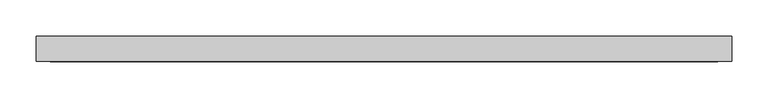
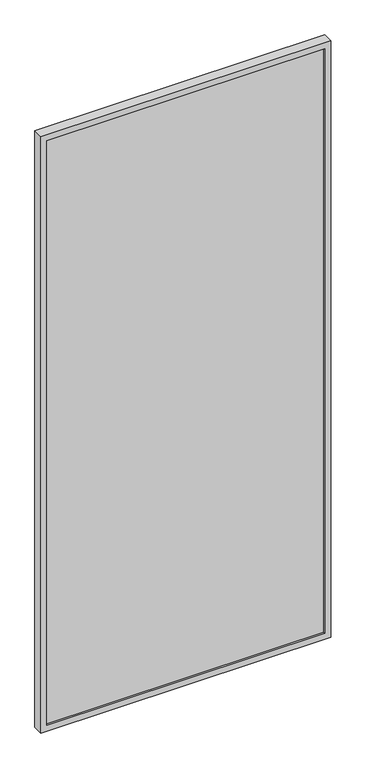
"""IFC4 building model written with IfcOpenShell, lengths in millimetres: plate geometry, ARQ-PA-IN-Vidrio Fijo Laminado  : ARQ-PA-IN-Vidrio Fijo Laminado ."""

from ifc_helpers import new_model, si_unit, frame, origin, place, context, project, spatial, polyline, outline, extrude, source, transform, mapped, element, save


def plate_b5645cc8(model_context):
    return source(origin(), model_context, "Body", "SweptSolid", [
        extrude(outline(polyline([(462.9589742, 10.0), (462.9589742, -10.0), (-462.9589742, -10.0), (-462.9589742, 10.0), (462.9589742, 10.0)])), frame((0.0, 0.0, 20.0), z_axis=(0.0, 0.0, 1.0), x_axis=(1.0, 0.0, 0.0)), (0.0, 0.0, 1.0), 2060.0),
        extrude(outline(polyline([(2100.0, -482.9589742), (0.0, -482.9589742), (0.0, 482.9589742), (2100.0, 482.9589742), (2100.0, -482.9589742)]), holes=[polyline([(2080.0, -462.9589742), (2080.0, 462.9589742), (20.0, 462.9589742), (20.0, -462.9589742), (2080.0, -462.9589742)])]), frame((0.0, -17.5, 0.0), z_axis=(0.0, 1.0, 0.0), x_axis=(0.0, 0.0, 1.0)), (0.0, 0.0, 1.0), 35.0),
    ])


if __name__ == "__main__":
    model = new_model("IFC4")
    model_context = context("Model", 3, world=origin())
    ifc_project = project(units=[si_unit("LENGTHUNIT", "METRE", prefix="MILLI")], contexts=[model_context])
    site = spatial("IfcSite", under=ifc_project)
    building = spatial("IfcBuilding", under=site)
    placement = place(None, origin())
    plate_shape = plate_b5645cc8(model_context)
    element("IfcPlate", 1, ObjectType="ARQ-PA-IN-Vidrio Fijo Laminado  : ARQ-PA-IN-Vidrio Fijo Laminado ", at=placement, inside=building, context=model_context, shape_type="MappedRepresentation", body=[
        mapped(plate_shape, transform((0.0, 0.0, 0.0), x_axis=(1.0, 0.0, 0.0), y_axis=(0.0, 1.0, 0.0), z_axis=(0.0, 0.0, 1.0))),
    ])
    save(model, "model.ifc")
